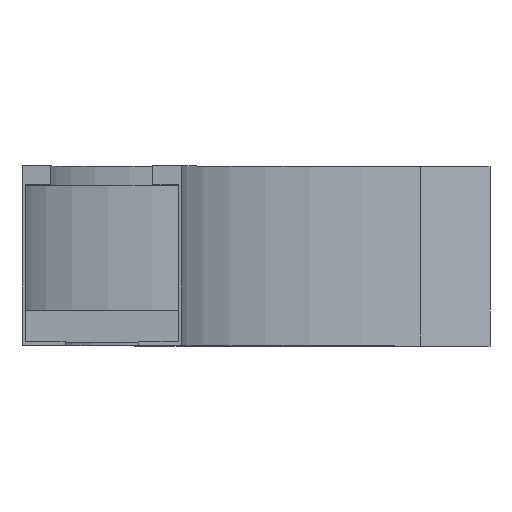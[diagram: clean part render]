
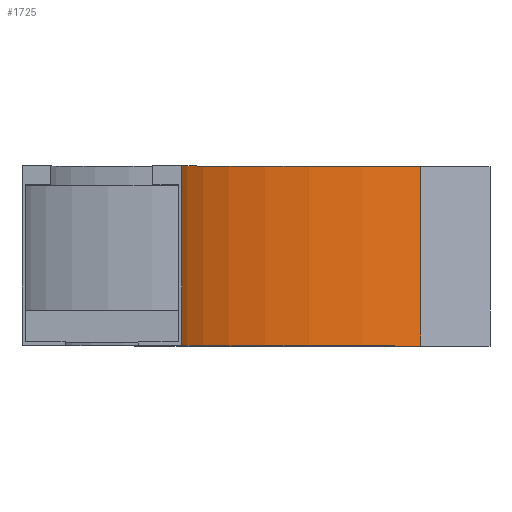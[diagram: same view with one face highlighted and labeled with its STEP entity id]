
A CAD part, top view. The second image highlights one B-rep face of the part: STEP entity #1725.
In plain terms, the highlighted cylindrical face has radius 300 mm (diameter 600 mm), a partial arc.
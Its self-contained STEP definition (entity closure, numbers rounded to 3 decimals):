
#70 = FACE_OUTER_BOUND ( 'NONE', #1357, .T. ) ;
#91 = DIRECTION ( 'NONE',  ( 0., -1., 0. ) ) ;
#274 = EDGE_CURVE ( 'NONE', #827, #1485, #1813, .T. ) ;
#390 = CARTESIAN_POINT ( 'NONE',  ( 150., 0., -309.808 ) ) ;
#401 = EDGE_CURVE ( 'NONE', #1485, #1075, #517, .T. ) ;
#471 = VECTOR ( 'NONE', #615, 1000. ) ;
#486 = EDGE_CURVE ( 'NONE', #827, #1203, #726, .T. ) ;
#517 = LINE ( 'NONE', #390, #1279 ) ;
#538 = EDGE_CURVE ( 'NONE', #1203, #1075, #644, .T. ) ;
#549 = CARTESIAN_POINT ( 'NONE',  ( 0., 112.5, -50. ) ) ;
#615 = DIRECTION ( 'NONE',  ( 0., 1., 0. ) ) ;
#616 = DIRECTION ( 'NONE',  ( 0., -1., 0. ) ) ;
#644 = CIRCLE ( 'NONE', #1640, 300. ) ;
#686 = ORIENTED_EDGE ( 'NONE', *, *, #538, .F. ) ;
#703 = DIRECTION ( 'NONE',  ( 0., -1., 0. ) ) ;
#726 = LINE ( 'NONE', #884, #471 ) ;
#779 = CARTESIAN_POINT ( 'NONE',  ( 300., 112.5, -50. ) ) ;
#827 = VERTEX_POINT ( 'NONE', #892 ) ;
#884 = CARTESIAN_POINT ( 'NONE',  ( 0., 0., -50. ) ) ;
#892 = CARTESIAN_POINT ( 'NONE',  ( 0., 0., -50. ) ) ;
#1000 = ORIENTED_EDGE ( 'NONE', *, *, #486, .F. ) ;
#1075 = VERTEX_POINT ( 'NONE', #1108 ) ;
#1108 = CARTESIAN_POINT ( 'NONE',  ( 150., 112.5, -309.808 ) ) ;
#1111 = DIRECTION ( 'NONE',  ( 0., 1., 0. ) ) ;
#1150 = DIRECTION ( 'NONE',  ( -1., 0., 0. ) ) ;
#1172 = AXIS2_PLACEMENT_3D ( 'NONE', #1419, #703, #1150 ) ;
#1203 = VERTEX_POINT ( 'NONE', #549 ) ;
#1279 = VECTOR ( 'NONE', #1111, 1000. ) ;
#1335 = CARTESIAN_POINT ( 'NONE',  ( 300., 0., -50. ) ) ;
#1357 = EDGE_LOOP ( 'NONE', ( #686, #1000, #1775, #1384 ) ) ;
#1384 = ORIENTED_EDGE ( 'NONE', *, *, #401, .T. ) ;
#1419 = CARTESIAN_POINT ( 'NONE',  ( 300., 0., -50. ) ) ;
#1474 = CARTESIAN_POINT ( 'NONE',  ( 150., 0., -309.808 ) ) ;
#1485 = VERTEX_POINT ( 'NONE', #1474 ) ;
#1637 = CYLINDRICAL_SURFACE ( 'NONE', #1798, 300. ) ;
#1640 = AXIS2_PLACEMENT_3D ( 'NONE', #779, #91, #1656 ) ;
#1656 = DIRECTION ( 'NONE',  ( -1., 0., 0. ) ) ;
#1725 = ADVANCED_FACE ( 'NONE', ( #70 ), #1637, .F. ) ;
#1775 = ORIENTED_EDGE ( 'NONE', *, *, #274, .T. ) ;
#1780 = DIRECTION ( 'NONE',  ( 0., 0., -1. ) ) ;
#1798 = AXIS2_PLACEMENT_3D ( 'NONE', #1335, #616, #1780 ) ;
#1813 = CIRCLE ( 'NONE', #1172, 300. ) ;
